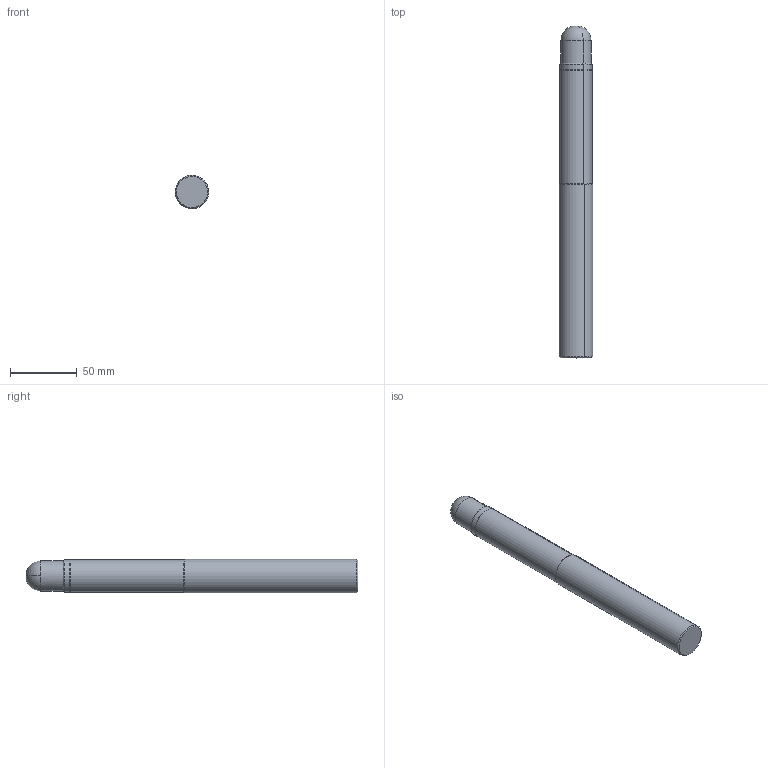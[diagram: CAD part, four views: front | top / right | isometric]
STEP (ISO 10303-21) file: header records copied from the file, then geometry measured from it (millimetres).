
FILE_DESCRIPTION (( 'STEP AP214' ), '1' );
FILE_NAME ('ZBC2502250.STEP', '2021-10-01T01:02:08', ( '' ), ( '' ), 'SwSTEP 2.0', 'SolidWorks 2018', '' );
FILE_SCHEMA (( 'AUTOMOTIVE_DESIGN' ));
Length unit declared in the file: millimetre
Products named in the file (1): ZBC2502250
Bounding box: 25 x 247.8 x 24.99 mm (x, y, z)
Volume: 114145.1 mm3; surface area: 21279.6 mm2
Topology: 3 solids, 3 shells, 32 faces, 67 edges, 39 vertices
Faces by surface type: cylinder 15, plane 6, sphere 4, bspline 4, cone 3
Entity records: 900 total; most frequent: CARTESIAN_POINT 169, DIRECTION 162, ORIENTED_EDGE 126, AXIS2_PLACEMENT_3D 70, EDGE_CURVE 63, CIRCLE 41, VERTEX_POINT 37, ADVANCED_FACE 32
